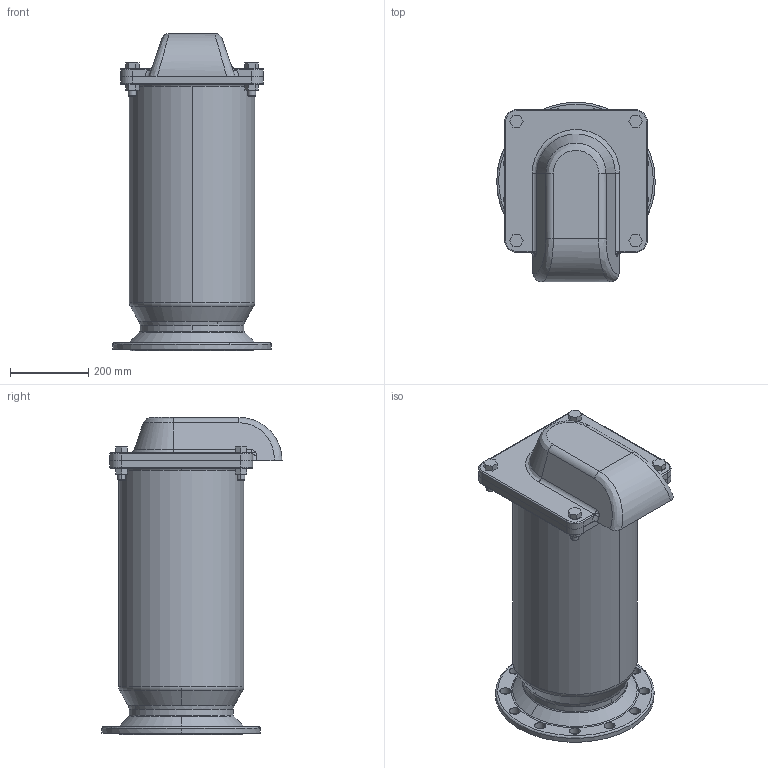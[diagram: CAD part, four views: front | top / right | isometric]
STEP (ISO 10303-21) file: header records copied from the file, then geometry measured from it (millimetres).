
FILE_DESCRIPTION (( 'STEP AP203' ), '1' );
FILE_NAME ('0.STEP', '2017-05-28T02:10:23', ( 'User' ), ( 'shendu' ), 'SwSTEP 2.0', 'SolidWorks 2015', '' );
FILE_SCHEMA (( 'CONFIG_CONTROL_DESIGN' ));
Length unit declared in the file: millimetre
Products named in the file (1): 0
Bounding box: 405 x 460 x 810 mm (x, y, z)
Volume: 19358478.8 mm3; surface area: 4267625.5 mm2
Topology: 12 solids, 12 shells, 343 faces, 838 edges, 524 vertices
Faces by surface type: cylinder 125, plane 121, bspline 61, torus 18, cone 18
Entity records: 21403 total; most frequent: CARTESIAN_POINT 13501, ORIENTED_EDGE 1646, DIRECTION 1543, EDGE_CURVE 823, AXIS2_PLACEMENT_3D 570, VERTEX_POINT 524, EDGE_LOOP 413, VECTOR 403
